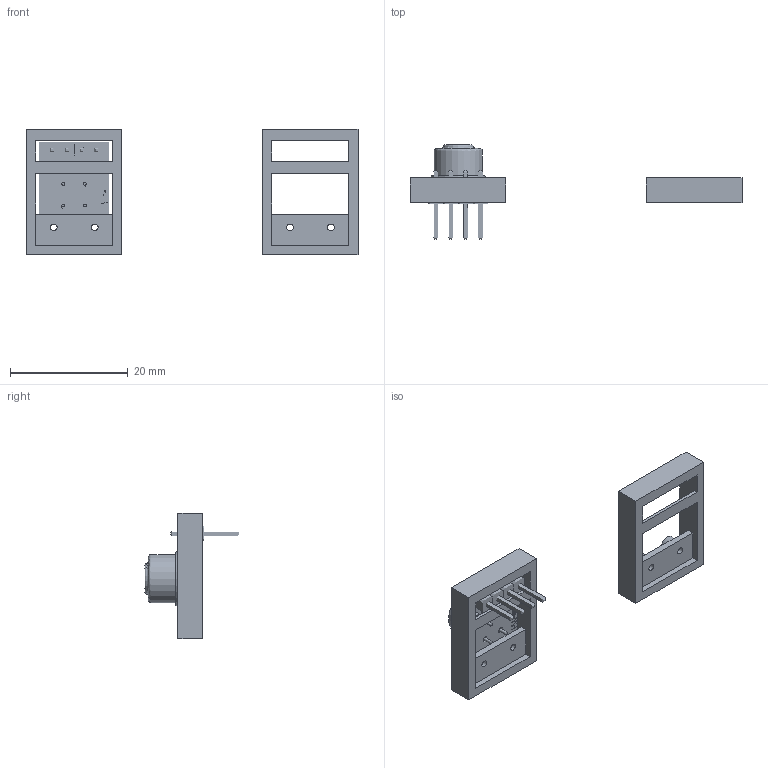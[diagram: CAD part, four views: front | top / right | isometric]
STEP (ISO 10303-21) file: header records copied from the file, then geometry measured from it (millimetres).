
FILE_DESCRIPTION(/* description */ ('STEP AP242 Edition 2','CAx-IF Rec.Pracs.---Representation and Presentation of Product Manufacturing Information (PMI)---4.0---2014-10-13','CAx-IF Rec.Pracs.---3D Tessellated Geometry---0.4---2014-09-14','2;1','CAx-IF Rec.Pracs.---User Defined Attributes---1.5---2016-08-15'),/* implementation_level */ '2;1');
FILE_NAME(/* name */ 'thermosensor + mount',/* time_stamp */ '2026-02-01T16:55:36Z',/* author */ (''),/* organization */ (''),/* preprocessor_version */ 'ST-DEVELOPER v20',/* originating_system */ 'ONSHAPE BY PTC INC, 1.210',/* authorisation */ ' ');
FILE_SCHEMA (('AP242_MANAGED_MODEL_BASED_3D_ENGINEERING_MIM_LF { 1 0 10303 442 3 1 4 }'));
Length unit declared in the file: centimetre
Products named in the file (13): id2; id5; id8; id11; id14; id17; id20; id23; id26; id29; id32; Part 2; Part 1
Bounding box: 56.41 x 16 x 21.27 mm (x, y, z)
Volume: 1173.5 mm3; surface area: 3196.9 mm2
Topology: 2 solids, 13 shells, 57 faces, 120 edges, 80 vertices
Faces by surface type: plane 38, other 11, cylinder 8
Full cylindrical faces by diameter (mm): 1.121 x2, 1.142 x2, 2.702 x2, 2.711 x2
Entity records: 1692 total; most frequent: CARTESIAN_POINT 251, DIRECTION 246, ORIENTED_EDGE 224, EDGE_CURVE 112, LINE 96, VECTOR 96, VERTEX_POINT 80, AXIS2_PLACEMENT_3D 75
